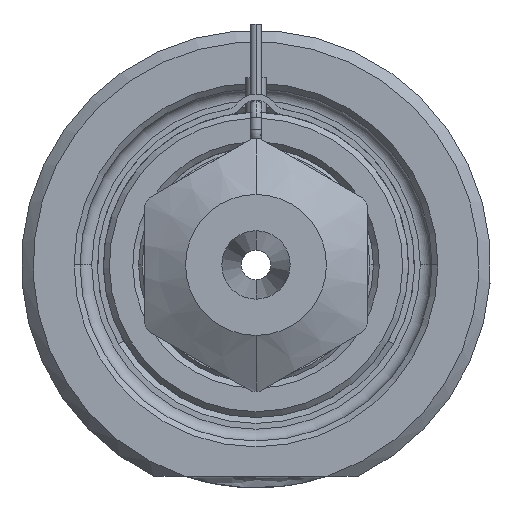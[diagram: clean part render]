
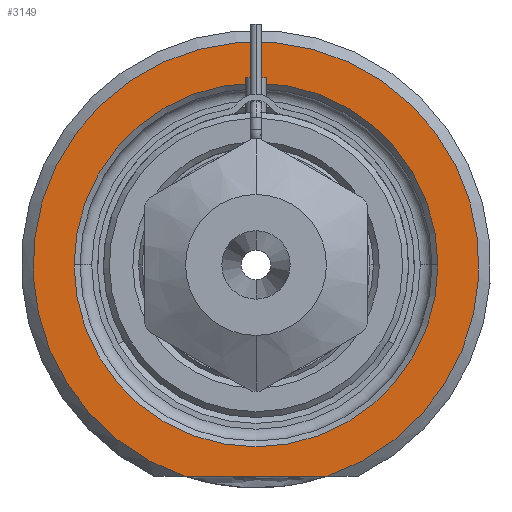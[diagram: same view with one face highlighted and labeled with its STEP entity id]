
A CAD part, front view. The second image highlights one B-rep face of the part: STEP entity #3149.
In plain terms, the highlighted planar face has unit normal (0, -1, 0).
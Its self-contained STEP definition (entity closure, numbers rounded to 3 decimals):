
#1=DIRECTION('',(1.,0.,0.));
#2=VECTOR('',#1,12.166);
#3=CARTESIAN_POINT('',(-6.083,0.,-18.));
#4=LINE('',#3,#2);
#5=CARTESIAN_POINT('',(0.,0.,0.));
#6=DIRECTION('',(0.,1.,0.));
#7=DIRECTION('',(-1.,0.,0.));
#8=AXIS2_PLACEMENT_3D('',#5,#6,#7);
#10=CARTESIAN_POINT('',(0.,0.,0.));
#11=DIRECTION('',(0.,1.,0.));
#12=DIRECTION('',(1.,0.,0.));
#13=AXIS2_PLACEMENT_3D('',#10,#11,#12);
#264=CARTESIAN_POINT('',(0.,0.,0.));
#265=DIRECTION('',(0.,-1.,0.));
#266=DIRECTION('',(0.32,0.,-0.947));
#267=AXIS2_PLACEMENT_3D('',#264,#265,#266);
#2648=CARTESIAN_POINT('',(-15.5,0.,0.));
#2649=CARTESIAN_POINT('',(15.5,0.,0.));
#2650=VERTEX_POINT('',#2648);
#2651=VERTEX_POINT('',#2649);
#2706=CARTESIAN_POINT('',(-6.083,0.,-18.));
#2707=CARTESIAN_POINT('',(6.083,0.,-18.));
#2708=VERTEX_POINT('',#2706);
#2709=VERTEX_POINT('',#2707);
#3132=CARTESIAN_POINT('',(0.,0.,0.));
#3133=DIRECTION('',(0.,-1.,0.));
#3134=DIRECTION('',(1.,0.,0.));
#3135=AXIS2_PLACEMENT_3D('',#3132,#3133,#3134);
#3136=PLANE('',#3135);
#3138=ORIENTED_EDGE('',*,*,#3137,.F.);
#3140=ORIENTED_EDGE('',*,*,#3139,.F.);
#3141=EDGE_LOOP('',(#3138,#3140));
#3142=FACE_OUTER_BOUND('',#3141,.F.);
#3144=ORIENTED_EDGE('',*,*,#3143,.F.);
#3146=ORIENTED_EDGE('',*,*,#3145,.F.);
#3147=EDGE_LOOP('',(#3144,#3146));
#3148=FACE_BOUND('',#3147,.F.);
#3149=ADVANCED_FACE('',(#3142,#3148),#3136,.T.);
#9=CIRCLE('',#8,15.5);
#14=CIRCLE('',#13,15.5);
#268=CIRCLE('',#267,19.);
#3137=EDGE_CURVE('',#2708,#2709,#4,.T.);
#3139=EDGE_CURVE('',#2709,#2708,#268,.T.);
#3143=EDGE_CURVE('',#2650,#2651,#9,.T.);
#3145=EDGE_CURVE('',#2651,#2650,#14,.T.);
